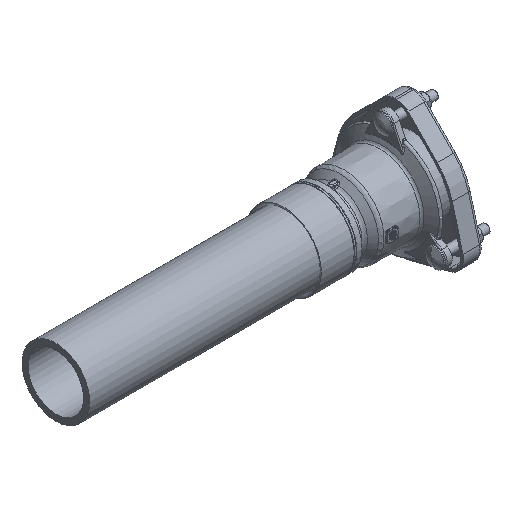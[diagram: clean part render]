
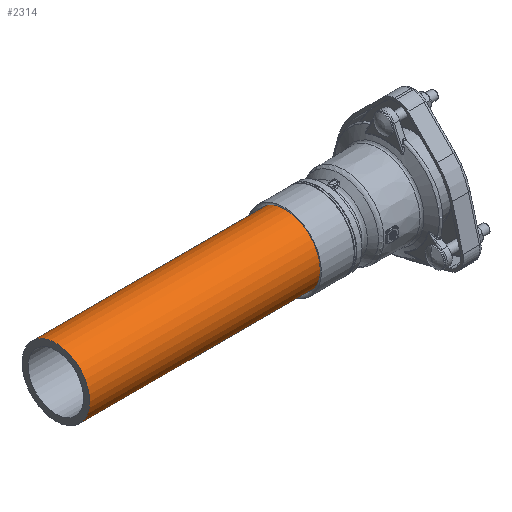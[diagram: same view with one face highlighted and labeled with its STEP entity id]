
A CAD part, isometric view. The second image highlights one B-rep face of the part: STEP entity #2314.
In plain terms, the highlighted cylindrical face has radius 62.5 mm (diameter 125 mm), a full revolution.
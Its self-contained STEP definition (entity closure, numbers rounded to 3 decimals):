
#2287=CARTESIAN_POINT('',(-618.0,0.,0.0));
#2288=DIRECTION('',(1.0,0.0,0.0));
#2289=DIRECTION('',(0.0,0.0,1.0));
#2290=AXIS2_PLACEMENT_3D('',#2287,#2288,#2289);
#2291=CYLINDRICAL_SURFACE('',#2290,62.5);
#2292=CARTESIAN_POINT('',(-618.0,0.,-62.5));
#2293=VERTEX_POINT('',#2292);
#2294=CARTESIAN_POINT('',(-618.0,0.,0.0));
#2295=DIRECTION('',(-1.0,0.0,0.0));
#2296=DIRECTION('',(0.0,0.0,1.0));
#2297=AXIS2_PLACEMENT_3D('',#2294,#2295,#2296);
#2298=CIRCLE('',#2297,62.5);
#2299=EDGE_CURVE('',#2293,#2293,#2298,.T.);
#2300=ORIENTED_EDGE('',*,*,#2299,.F.);
#2301=EDGE_LOOP('',(#2300));
#2302=FACE_OUTER_BOUND('',#2301,.T.);
#2303=CARTESIAN_POINT('',(-155.0,0.,-62.5));
#2304=VERTEX_POINT('',#2303);
#2305=CARTESIAN_POINT('',(-155.0,0.,0.0));
#2306=DIRECTION('',(-1.0,0.0,0.0));
#2307=DIRECTION('',(0.0,0.0,1.0));
#2308=AXIS2_PLACEMENT_3D('',#2305,#2306,#2307);
#2309=CIRCLE('',#2308,62.5);
#2310=EDGE_CURVE('',#2304,#2304,#2309,.T.);
#2311=ORIENTED_EDGE('',*,*,#2310,.T.);
#2312=EDGE_LOOP('',(#2311));
#2313=FACE_BOUND('',#2312,.T.);
#2314=ADVANCED_FACE('',(#2302,#2313),#2291,.T.);
